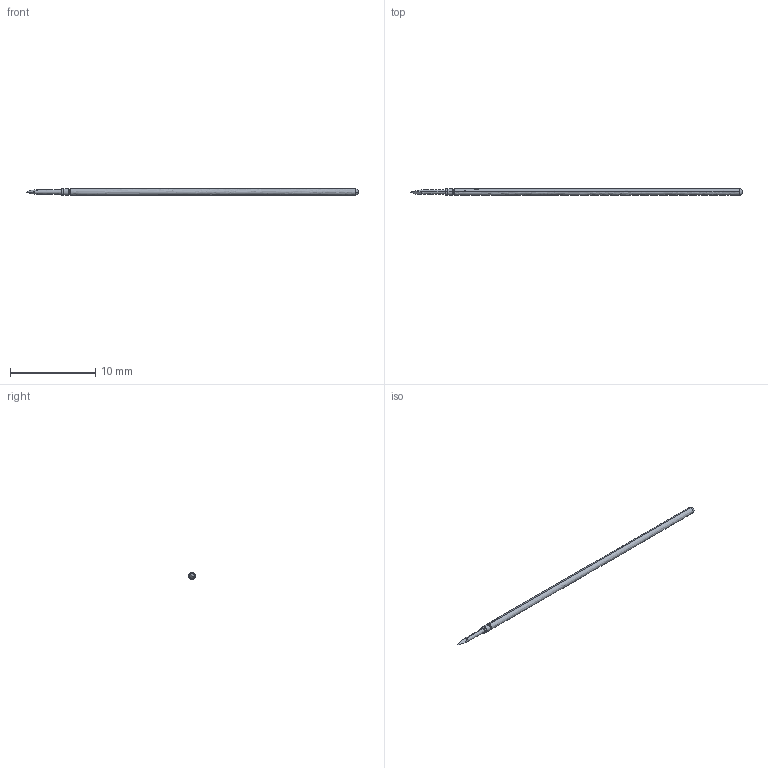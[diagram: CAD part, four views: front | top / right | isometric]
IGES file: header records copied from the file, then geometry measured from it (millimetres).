
Start section: SolidWorks IGES file using analytic representation for surfaces
Global section: file name: L:\probe solid model mockups\Solidworks models\POGO-72T1 RECD.IGS; native system: SolidWorks 2006 by SolidWorks Corporation; preprocessor: SolidWorks 2006 by SolidWorks Corporation; author: Ksnyder; date: 071211.135958; units: inch
Bounding box: 38.94 x 0.79 x 0.79 mm (x, y, z)
Surface area: 174.9 mm2
Topology: 1 solids, 1 shells, 21 faces, 46 edges, 26 vertices
Faces by surface type: revolution 16, plane 5
